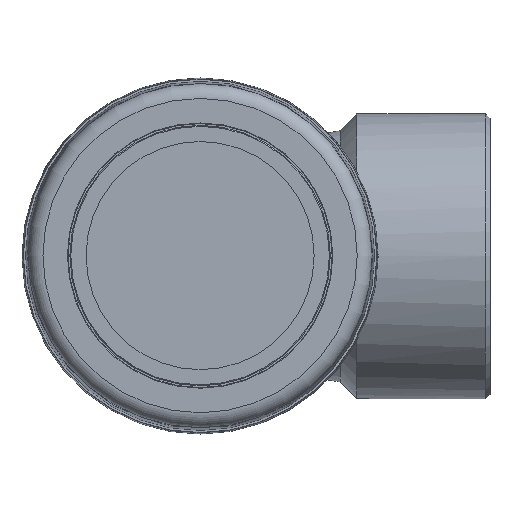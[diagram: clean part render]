
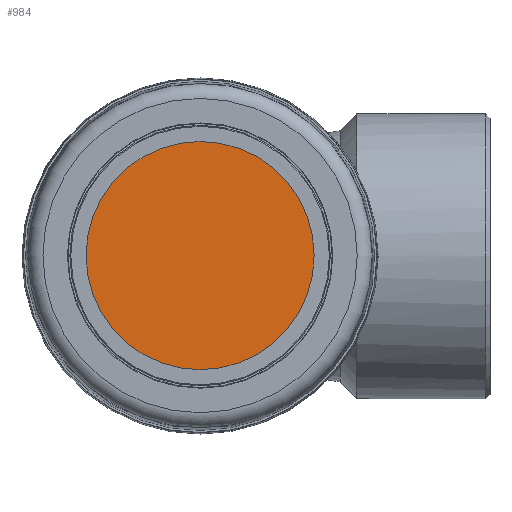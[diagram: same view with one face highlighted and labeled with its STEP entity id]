
A CAD part, top view. The second image highlights one B-rep face of the part: STEP entity #984.
In plain terms, the highlighted planar face has unit normal (0, 0, 1).
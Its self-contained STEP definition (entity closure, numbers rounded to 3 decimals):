
#135=CIRCLE('',#1103,12.);
#136=CIRCLE('',#1104,12.);
#202=FACE_OUTER_BOUND('',#261,.T.);
#261=EDGE_LOOP('',(#812,#813));
#458=VERTEX_POINT('',#1831);
#459=VERTEX_POINT('',#1832);
#590=EDGE_CURVE('',#458,#459,#135,.T.);
#591=EDGE_CURVE('',#459,#458,#136,.T.);
#812=ORIENTED_EDGE('',*,*,#590,.F.);
#813=ORIENTED_EDGE('',*,*,#591,.F.);
#943=PLANE('',#1102);
#984=ADVANCED_FACE('',(#202),#943,.T.);
#1102=AXIS2_PLACEMENT_3D('',#1830,#1346,#1347);
#1103=AXIS2_PLACEMENT_3D('',#1833,#1348,#1349);
#1104=AXIS2_PLACEMENT_3D('',#1834,#1350,#1351);
#1346=DIRECTION('center_axis',(0.,0.,1.));
#1347=DIRECTION('ref_axis',(1.,0.,0.));
#1348=DIRECTION('center_axis',(0.,0.,-1.));
#1349=DIRECTION('ref_axis',(1.,0.,0.));
#1350=DIRECTION('center_axis',(0.,0.,-1.));
#1351=DIRECTION('ref_axis',(1.,0.,0.));
#1830=CARTESIAN_POINT('Origin',(-12.,0.,47.1));
#1831=CARTESIAN_POINT('',(-12.,0.,47.1));
#1832=CARTESIAN_POINT('',(12.,0.,47.1));
#1833=CARTESIAN_POINT('Origin',(0.,0.,47.1));
#1834=CARTESIAN_POINT('Origin',(0.,0.,47.1));
